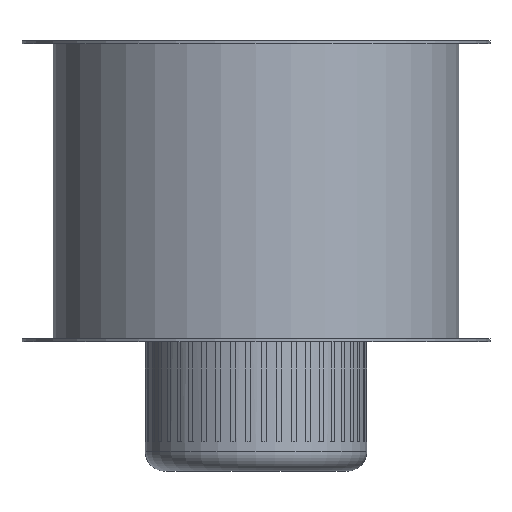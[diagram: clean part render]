
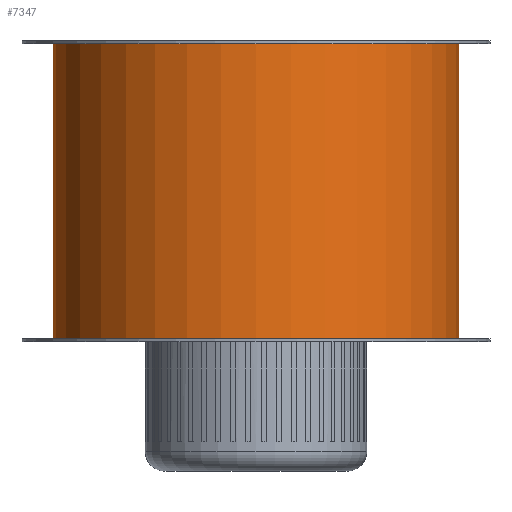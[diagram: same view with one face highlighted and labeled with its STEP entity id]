
A CAD part, front view. The second image highlights one B-rep face of the part: STEP entity #7347.
In plain terms, the highlighted cylindrical face has radius 204 mm (diameter 408 mm), a full revolution.
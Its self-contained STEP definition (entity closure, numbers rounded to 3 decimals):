
#417=FACE_BOUND('',#1329,.T.);
#418=FACE_BOUND('',#1330,.T.);
#828=FACE_OUTER_BOUND('',#1328,.T.);
#1328=EDGE_LOOP('',(#6694,#6695,#6696,#6697));
#1329=EDGE_LOOP('',(#6698,#6699));
#1330=EDGE_LOOP('',(#6700,#6701,#6702,#6703));
#1390=B_SPLINE_CURVE_WITH_KNOTS('',3,(#11650,#11651,#11652,#11653,#11654,
#11655,#11656,#11657,#11658,#11659),.UNSPECIFIED.,.F.,.F.,(4,2,2,2,4),(0.,
0.28,0.56,0.897,1.234),
 .UNSPECIFIED.);
#1391=B_SPLINE_CURVE_WITH_KNOTS('',3,(#11660,#11661,#11662,#11663,#11664,
#11665,#11666,#11667,#11668,#11669,#11670,#11671,#11672,#11673,#11674,#11675,
#11676,#11677,#11678,#11679,#11680,#11681,#11682,#11683,#11684,#11685),
 .UNSPECIFIED.,.F.,.F.,(4,2,2,2,2,2,2,2,2,2,2,2,4),(1.234,1.58,
1.925,2.206,2.487,2.767,3.048,
3.394,3.739,4.076,4.413,4.693,
4.973),.UNSPECIFIED.);
#1740=CIRCLE('',#7853,204.);
#1741=CIRCLE('',#7855,204.);
#1854=CIRCLE('',#8056,204.);
#1857=CIRCLE('',#8061,204.);
#2277=LINE('',#11750,#2809);
#2285=LINE('',#11765,#2817);
#2389=LINE('',#13953,#2921);
#2809=VECTOR('',#9448,10.);
#2817=VECTOR('',#9460,10.);
#2921=VECTOR('',#9988,204.);
#3388=VERTEX_POINT('',#11648);
#3389=VERTEX_POINT('',#11649);
#3397=VERTEX_POINT('',#11746);
#3399=VERTEX_POINT('',#11749);
#3403=VERTEX_POINT('',#11761);
#3404=VERTEX_POINT('',#11763);
#3579=VERTEX_POINT('',#13940);
#3582=VERTEX_POINT('',#13949);
#4259=EDGE_CURVE('',#3388,#3389,#1390,.T.);
#4260=EDGE_CURVE('',#3389,#3388,#1391,.T.);
#4275=EDGE_CURVE('',#3399,#3397,#2277,.T.);
#4283=EDGE_CURVE('',#3403,#3404,#2285,.T.);
#4284=EDGE_CURVE('',#3397,#3403,#1740,.T.);
#4285=EDGE_CURVE('',#3404,#3399,#1741,.T.);
#4622=EDGE_CURVE('',#3579,#3579,#1854,.T.);
#4626=EDGE_CURVE('',#3582,#3582,#1857,.T.);
#4627=EDGE_CURVE('',#3582,#3579,#2389,.T.);
#6694=ORIENTED_EDGE('',*,*,#4626,.T.);
#6695=ORIENTED_EDGE('',*,*,#4627,.T.);
#6696=ORIENTED_EDGE('',*,*,#4622,.T.);
#6697=ORIENTED_EDGE('',*,*,#4627,.F.);
#6698=ORIENTED_EDGE('',*,*,#4259,.T.);
#6699=ORIENTED_EDGE('',*,*,#4260,.T.);
#6700=ORIENTED_EDGE('',*,*,#4283,.T.);
#6701=ORIENTED_EDGE('',*,*,#4285,.T.);
#6702=ORIENTED_EDGE('',*,*,#4275,.T.);
#6703=ORIENTED_EDGE('',*,*,#4284,.T.);
#6815=CYLINDRICAL_SURFACE('',#8063,204.);
#7347=ADVANCED_FACE('',(#828,#417,#418),#6815,.T.);
#7853=AXIS2_PLACEMENT_3D('',#11767,#9463,#9464);
#7855=AXIS2_PLACEMENT_3D('',#11769,#9467,#9468);
#8056=AXIS2_PLACEMENT_3D('',#13941,#9971,#9972);
#8061=AXIS2_PLACEMENT_3D('',#13950,#9982,#9983);
#8063=AXIS2_PLACEMENT_3D('',#13952,#9986,#9987);
#9448=DIRECTION('',(0.,0.,-1.));
#9460=DIRECTION('',(0.,0.,1.));
#9463=DIRECTION('center_axis',(0.,0.,-1.));
#9464=DIRECTION('ref_axis',(-1.,0.,0.));
#9467=DIRECTION('center_axis',(0.,0.,1.));
#9468=DIRECTION('ref_axis',(-1.,0.,0.));
#9971=DIRECTION('center_axis',(0.,0.,1.));
#9972=DIRECTION('ref_axis',(-1.,0.,0.));
#9982=DIRECTION('center_axis',(0.,0.,-1.));
#9983=DIRECTION('ref_axis',(-1.,0.,0.));
#9986=DIRECTION('center_axis',(0.,0.,1.));
#9987=DIRECTION('ref_axis',(-1.,0.,0.));
#9988=DIRECTION('',(0.,0.,-1.));
#11648=CARTESIAN_POINT('',(-104.167,175.4,-89.));
#11649=CARTESIAN_POINT('',(-111.667,170.724,-81.5));
#11650=CARTESIAN_POINT('Ctrl Pts',(-104.167,175.4,-89.));
#11651=CARTESIAN_POINT('Ctrl Pts',(-104.167,175.4,-88.067));
#11652=CARTESIAN_POINT('Ctrl Pts',(-104.352,175.291,-87.084));
#11653=CARTESIAN_POINT('Ctrl Pts',(-105.073,174.86,-85.299));
#11654=CARTESIAN_POINT('Ctrl Pts',(-105.607,174.538,-84.498));
#11655=CARTESIAN_POINT('Ctrl Pts',(-106.906,173.747,-83.113));
#11656=CARTESIAN_POINT('Ctrl Pts',(-107.796,173.197,-82.493));
#11657=CARTESIAN_POINT('Ctrl Pts',(-109.706,171.994,-81.687));
#11658=CARTESIAN_POINT('Ctrl Pts',(-110.726,171.339,-81.5));
#11659=CARTESIAN_POINT('Ctrl Pts',(-111.667,170.724,-81.5));
#11660=CARTESIAN_POINT('Ctrl Pts',(-111.667,170.724,-81.5));
#11661=CARTESIAN_POINT('Ctrl Pts',(-112.629,170.094,-81.5));
#11662=CARTESIAN_POINT('Ctrl Pts',(-113.66,169.407,-81.695));
#11663=CARTESIAN_POINT('Ctrl Pts',(-115.575,168.106,-82.515));
#11664=CARTESIAN_POINT('Ctrl Pts',(-116.46,167.493,-83.139));
#11665=CARTESIAN_POINT('Ctrl Pts',(-117.741,166.594,-84.52));
#11666=CARTESIAN_POINT('Ctrl Pts',(-118.266,166.22,-85.311));
#11667=CARTESIAN_POINT('Ctrl Pts',(-118.98,165.71,-87.083));
#11668=CARTESIAN_POINT('Ctrl Pts',(-119.167,165.576,-88.064));
#11669=CARTESIAN_POINT('Ctrl Pts',(-119.167,165.576,-89.936));
#11670=CARTESIAN_POINT('Ctrl Pts',(-118.98,165.71,-90.917));
#11671=CARTESIAN_POINT('Ctrl Pts',(-118.266,166.22,-92.689));
#11672=CARTESIAN_POINT('Ctrl Pts',(-117.741,166.594,-93.48));
#11673=CARTESIAN_POINT('Ctrl Pts',(-116.46,167.493,-94.861));
#11674=CARTESIAN_POINT('Ctrl Pts',(-115.575,168.106,-95.485));
#11675=CARTESIAN_POINT('Ctrl Pts',(-113.66,169.407,-96.305));
#11676=CARTESIAN_POINT('Ctrl Pts',(-112.629,170.094,-96.5));
#11677=CARTESIAN_POINT('Ctrl Pts',(-110.726,171.339,-96.5));
#11678=CARTESIAN_POINT('Ctrl Pts',(-109.706,171.994,-96.313));
#11679=CARTESIAN_POINT('Ctrl Pts',(-107.796,173.197,-95.507));
#11680=CARTESIAN_POINT('Ctrl Pts',(-106.906,173.747,-94.887));
#11681=CARTESIAN_POINT('Ctrl Pts',(-105.607,174.538,-93.502));
#11682=CARTESIAN_POINT('Ctrl Pts',(-105.073,174.86,-92.701));
#11683=CARTESIAN_POINT('Ctrl Pts',(-104.352,175.291,-90.916));
#11684=CARTESIAN_POINT('Ctrl Pts',(-104.167,175.4,-89.933));
#11685=CARTESIAN_POINT('Ctrl Pts',(-104.167,175.4,-89.));
#11746=CARTESIAN_POINT('',(-74.444,189.932,-139.5));
#11749=CARTESIAN_POINT('',(-74.444,189.932,-38.5));
#11750=CARTESIAN_POINT('',(-74.444,189.932,0.));
#11761=CARTESIAN_POINT('',(74.444,189.932,-139.5));
#11763=CARTESIAN_POINT('',(74.444,189.932,-38.5));
#11765=CARTESIAN_POINT('',(74.444,189.932,0.));
#11767=CARTESIAN_POINT('Origin',(0.,0.,-139.5));
#11769=CARTESIAN_POINT('Origin',(0.,0.,-38.5));
#13940=CARTESIAN_POINT('',(204.,0.,-148.5));
#13941=CARTESIAN_POINT('Origin',(0.,0.,-148.5));
#13949=CARTESIAN_POINT('',(204.,0.,148.5));
#13950=CARTESIAN_POINT('Origin',(0.,0.,148.5));
#13952=CARTESIAN_POINT('Origin',(0.,0.,0.));
#13953=CARTESIAN_POINT('',(204.,0.,0.));
